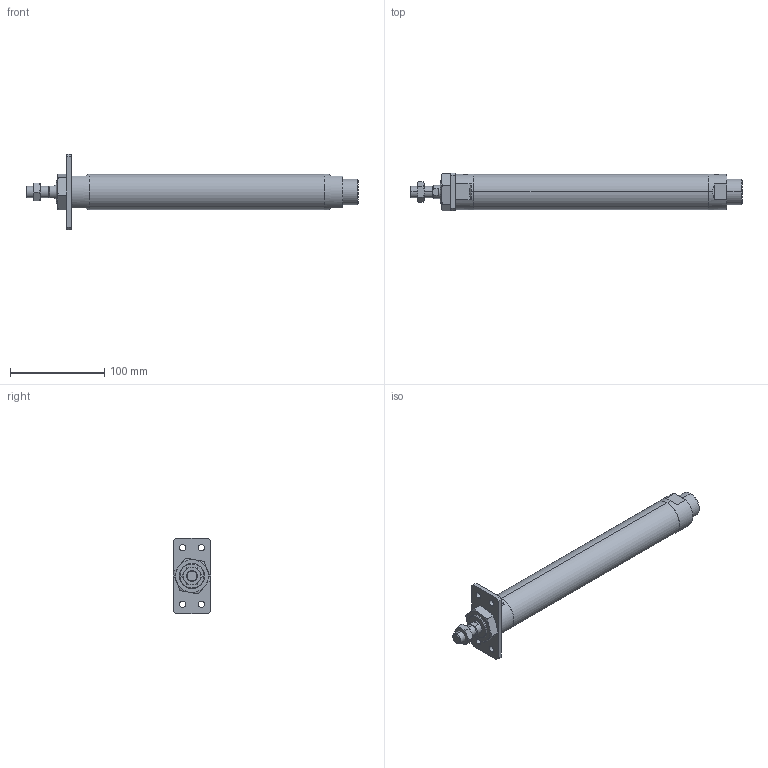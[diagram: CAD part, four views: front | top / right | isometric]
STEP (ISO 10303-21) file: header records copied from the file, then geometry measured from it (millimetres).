
FILE_DESCRIPTION (( 'STEP AP203' ), '1' );
FILE_NAME ('J#2-32-200-A.STEP', '2016-03-08T07:42:27', ( '' ), ( '' ), 'SwSTEP 2.0', 'SolidWorks 2014', '' );
FILE_SCHEMA (( 'CONFIG_CONTROL_DESIGN' ));
Length unit declared in the file: millimetre
Products named in the file (5): J#2-32-200-A; J#2-32-200; J#2-32-A
Assembly tree (4 placements, depth 2):
  J#2-32-200-A
    J#2-32-200
    (unnamed)
    (unnamed)
    J#2-32-A
Bounding box: 353 x 40 x 80 mm (x, y, z)
Volume: 358087.3 mm3; surface area: 52406.2 mm2
Topology: 4 solids, 4 shells, 114 faces, 264 edges, 161 vertices
Faces by surface type: plane 43, cylinder 32, torus 24, cone 15
Entity records: 4214 total; most frequent: CARTESIAN_POINT 1149, DIRECTION 537, ORIENTED_EDGE 520, EDGE_CURVE 260, AXIS2_PLACEMENT_3D 219, VERTEX_POINT 161, EDGE_LOOP 135, ADVANCED_FACE 114
